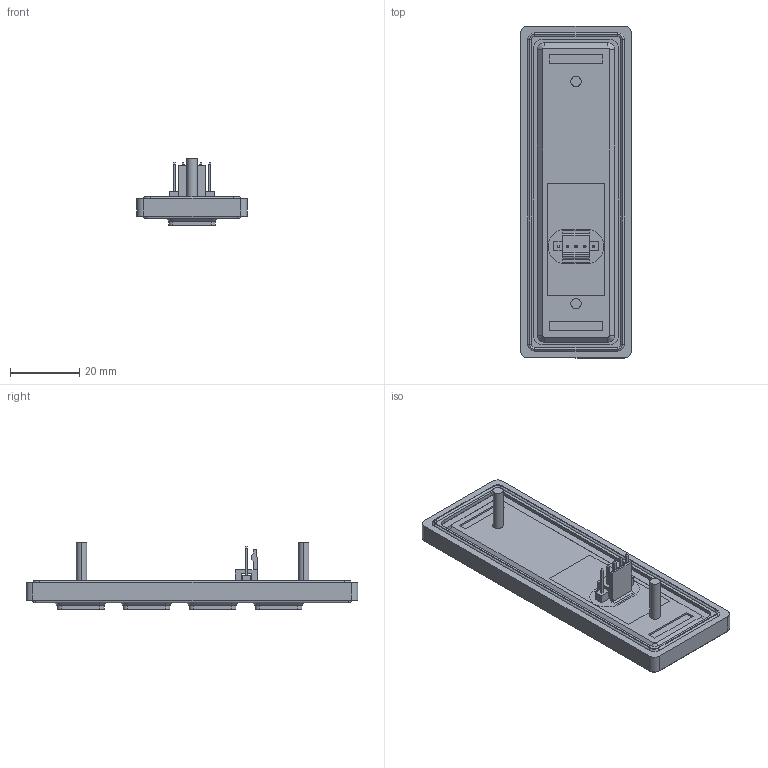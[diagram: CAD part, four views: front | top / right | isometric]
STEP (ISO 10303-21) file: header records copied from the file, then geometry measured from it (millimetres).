
FILE_DESCRIPTION (( 'STEP AP214' ), '1' );
FILE_NAME ('070-04-ASSY~1.STEP', '2018-03-05T15:48:37', ( '' ), ( '' ), 'SwSTEP 2.0', 'SolidWorks 2017', '' );
FILE_SCHEMA (( 'AUTOMOTIVE_DESIGN' ));
Length unit declared in the file: millimetre
Products named in the file (1): 070-04-ASSY~1
Bounding box: 31.87 x 95.62 x 19.5 mm (x, y, z)
Surface area: 10097.4 mm2 (no closed solid volume)
Topology: 0 solids, 11 shells, 395 faces, 1013 edges, 634 vertices
Faces by surface type: plane 160, cylinder 127, torus 88, cone 20
Entity records: 16197 total; most frequent: DIRECTION 2195, CARTESIAN_POINT 2115, ORIENTED_EDGE 1840, EDGE_CURVE 1013, AXIS2_PLACEMENT_3D 810, VERTEX_POINT 634, LINE 575, VECTOR 575
